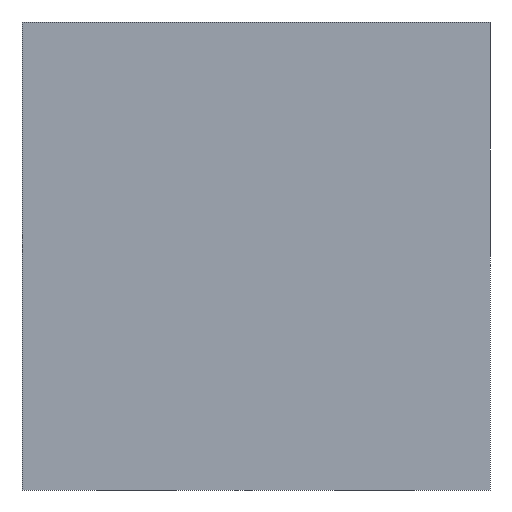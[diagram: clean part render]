
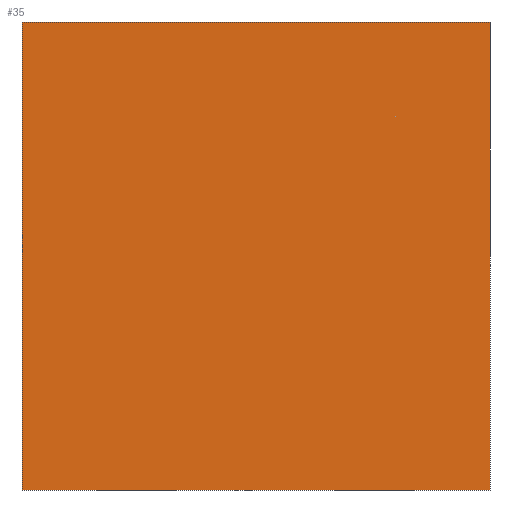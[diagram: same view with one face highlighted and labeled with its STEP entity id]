
A CAD part, left-side view. The second image highlights one B-rep face of the part: STEP entity #35.
In plain terms, the highlighted planar face has unit normal (-1, 0, 0).
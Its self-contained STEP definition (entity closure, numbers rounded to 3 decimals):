
#35 = ADVANCED_FACE('',(#36),#50,.F.);
#36 = FACE_BOUND('',#37,.F.);
#37 = EDGE_LOOP('',(#38,#73,#101,#129));
#38 = ORIENTED_EDGE('',*,*,#39,.F.);
#39 = EDGE_CURVE('',#40,#42,#44,.T.);
#40 = VERTEX_POINT('',#41);
#41 = CARTESIAN_POINT('',(-1.25,-3.77,2.6));
#42 = VERTEX_POINT('',#43);
#43 = CARTESIAN_POINT('',(-1.25,-3.77,7.6));
#44 = SURFACE_CURVE('',#45,(#49,#61),.PCURVE_S1.);
#45 = LINE('',#46,#47);
#46 = CARTESIAN_POINT('',(-1.25,-3.77,2.6));
#47 = VECTOR('',#48,1.);
#48 = DIRECTION('',(0.,0.,1.));
#49 = PCURVE('',#50,#55);
#50 = PLANE('',#51);
#51 = AXIS2_PLACEMENT_3D('',#52,#53,#54);
#52 = CARTESIAN_POINT('',(-1.25,-3.77,2.6));
#53 = DIRECTION('',(1.,0.,0.));
#54 = DIRECTION('',(0.,0.,1.));
#55 = DEFINITIONAL_REPRESENTATION('',(#56),#60);
#56 = LINE('',#57,#58);
#57 = CARTESIAN_POINT('',(0.,0.));
#58 = VECTOR('',#59,1.);
#59 = DIRECTION('',(1.,0.));
#60 = ( GEOMETRIC_REPRESENTATION_CONTEXT(2) 
PARAMETRIC_REPRESENTATION_CONTEXT() REPRESENTATION_CONTEXT('2D SPACE',''
  ) );
#61 = PCURVE('',#62,#67);
#62 = PLANE('',#63);
#63 = AXIS2_PLACEMENT_3D('',#64,#65,#66);
#64 = CARTESIAN_POINT('',(-1.25,-3.77,2.6));
#65 = DIRECTION('',(0.,1.,0.));
#66 = DIRECTION('',(0.,0.,1.));
#67 = DEFINITIONAL_REPRESENTATION('',(#68),#72);
#68 = LINE('',#69,#70);
#69 = CARTESIAN_POINT('',(0.,0.));
#70 = VECTOR('',#71,1.);
#71 = DIRECTION('',(1.,0.));
#72 = ( GEOMETRIC_REPRESENTATION_CONTEXT(2) 
PARAMETRIC_REPRESENTATION_CONTEXT() REPRESENTATION_CONTEXT('2D SPACE',''
  ) );
#73 = ORIENTED_EDGE('',*,*,#74,.T.);
#74 = EDGE_CURVE('',#40,#75,#77,.T.);
#75 = VERTEX_POINT('',#76);
#76 = CARTESIAN_POINT('',(-1.25,1.23,2.6));
#77 = SURFACE_CURVE('',#78,(#82,#89),.PCURVE_S1.);
#78 = LINE('',#79,#80);
#79 = CARTESIAN_POINT('',(-1.25,-3.77,2.6));
#80 = VECTOR('',#81,1.);
#81 = DIRECTION('',(0.,1.,0.));
#82 = PCURVE('',#50,#83);
#83 = DEFINITIONAL_REPRESENTATION('',(#84),#88);
#84 = LINE('',#85,#86);
#85 = CARTESIAN_POINT('',(0.,0.));
#86 = VECTOR('',#87,1.);
#87 = DIRECTION('',(0.,-1.));
#88 = ( GEOMETRIC_REPRESENTATION_CONTEXT(2) 
PARAMETRIC_REPRESENTATION_CONTEXT() REPRESENTATION_CONTEXT('2D SPACE',''
  ) );
#89 = PCURVE('',#90,#95);
#90 = PLANE('',#91);
#91 = AXIS2_PLACEMENT_3D('',#92,#93,#94);
#92 = CARTESIAN_POINT('',(-1.25,-3.77,2.6));
#93 = DIRECTION('',(0.,0.,1.));
#94 = DIRECTION('',(1.,0.,0.));
#95 = DEFINITIONAL_REPRESENTATION('',(#96),#100);
#96 = LINE('',#97,#98);
#97 = CARTESIAN_POINT('',(0.,0.));
#98 = VECTOR('',#99,1.);
#99 = DIRECTION('',(0.,1.));
#100 = ( GEOMETRIC_REPRESENTATION_CONTEXT(2) 
PARAMETRIC_REPRESENTATION_CONTEXT() REPRESENTATION_CONTEXT('2D SPACE',''
  ) );
#101 = ORIENTED_EDGE('',*,*,#102,.T.);
#102 = EDGE_CURVE('',#75,#103,#105,.T.);
#103 = VERTEX_POINT('',#104);
#104 = CARTESIAN_POINT('',(-1.25,1.23,7.6));
#105 = SURFACE_CURVE('',#106,(#110,#117),.PCURVE_S1.);
#106 = LINE('',#107,#108);
#107 = CARTESIAN_POINT('',(-1.25,1.23,2.6));
#108 = VECTOR('',#109,1.);
#109 = DIRECTION('',(0.,0.,1.));
#110 = PCURVE('',#50,#111);
#111 = DEFINITIONAL_REPRESENTATION('',(#112),#116);
#112 = LINE('',#113,#114);
#113 = CARTESIAN_POINT('',(0.,-5.));
#114 = VECTOR('',#115,1.);
#115 = DIRECTION('',(1.,0.));
#116 = ( GEOMETRIC_REPRESENTATION_CONTEXT(2) 
PARAMETRIC_REPRESENTATION_CONTEXT() REPRESENTATION_CONTEXT('2D SPACE',''
  ) );
#117 = PCURVE('',#118,#123);
#118 = PLANE('',#119);
#119 = AXIS2_PLACEMENT_3D('',#120,#121,#122);
#120 = CARTESIAN_POINT('',(-1.25,1.23,2.6));
#121 = DIRECTION('',(0.,1.,0.));
#122 = DIRECTION('',(0.,0.,1.));
#123 = DEFINITIONAL_REPRESENTATION('',(#124),#128);
#124 = LINE('',#125,#126);
#125 = CARTESIAN_POINT('',(0.,0.));
#126 = VECTOR('',#127,1.);
#127 = DIRECTION('',(1.,0.));
#128 = ( GEOMETRIC_REPRESENTATION_CONTEXT(2) 
PARAMETRIC_REPRESENTATION_CONTEXT() REPRESENTATION_CONTEXT('2D SPACE',''
  ) );
#129 = ORIENTED_EDGE('',*,*,#130,.F.);
#130 = EDGE_CURVE('',#42,#103,#131,.T.);
#131 = SURFACE_CURVE('',#132,(#136,#143),.PCURVE_S1.);
#132 = LINE('',#133,#134);
#133 = CARTESIAN_POINT('',(-1.25,-3.77,7.6));
#134 = VECTOR('',#135,1.);
#135 = DIRECTION('',(0.,1.,0.));
#136 = PCURVE('',#50,#137);
#137 = DEFINITIONAL_REPRESENTATION('',(#138),#142);
#138 = LINE('',#139,#140);
#139 = CARTESIAN_POINT('',(5.,0.));
#140 = VECTOR('',#141,1.);
#141 = DIRECTION('',(0.,-1.));
#142 = ( GEOMETRIC_REPRESENTATION_CONTEXT(2) 
PARAMETRIC_REPRESENTATION_CONTEXT() REPRESENTATION_CONTEXT('2D SPACE',''
  ) );
#143 = PCURVE('',#144,#149);
#144 = PLANE('',#145);
#145 = AXIS2_PLACEMENT_3D('',#146,#147,#148);
#146 = CARTESIAN_POINT('',(-1.25,-3.77,7.6));
#147 = DIRECTION('',(0.,0.,1.));
#148 = DIRECTION('',(1.,0.,0.));
#149 = DEFINITIONAL_REPRESENTATION('',(#150),#154);
#150 = LINE('',#151,#152);
#151 = CARTESIAN_POINT('',(0.,0.));
#152 = VECTOR('',#153,1.);
#153 = DIRECTION('',(0.,1.));
#154 = ( GEOMETRIC_REPRESENTATION_CONTEXT(2) 
PARAMETRIC_REPRESENTATION_CONTEXT() REPRESENTATION_CONTEXT('2D SPACE',''
  ) );
